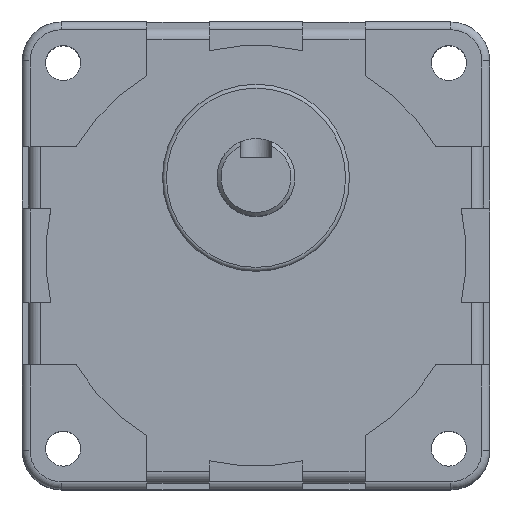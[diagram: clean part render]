
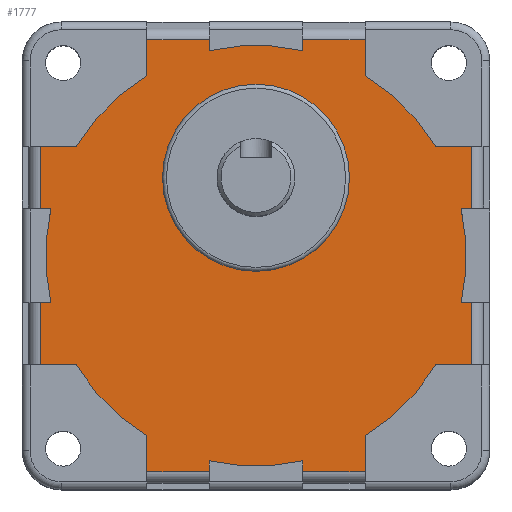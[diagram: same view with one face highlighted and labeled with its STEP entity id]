
A CAD part, top view. The second image highlights one B-rep face of the part: STEP entity #1777.
In plain terms, the highlighted planar face has unit normal (0, 0, 1).
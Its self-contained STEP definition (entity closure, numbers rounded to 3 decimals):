
#29=LINE('',#2660,#201);
#33=LINE('',#2672,#205);
#35=LINE('',#2678,#207);
#36=LINE('',#2682,#208);
#37=LINE('',#2684,#209);
#38=LINE('',#2686,#210);
#39=LINE('',#2690,#211);
#40=LINE('',#2692,#212);
#41=LINE('',#2694,#213);
#42=LINE('',#2698,#214);
#43=LINE('',#2700,#215);
#44=LINE('',#2702,#216);
#45=LINE('',#2706,#217);
#46=LINE('',#2708,#218);
#47=LINE('',#2710,#219);
#48=LINE('',#2714,#220);
#49=LINE('',#2716,#221);
#50=LINE('',#2718,#222);
#51=LINE('',#2722,#223);
#52=LINE('',#2724,#224);
#53=LINE('',#2726,#225);
#54=LINE('',#2729,#226);
#55=LINE('',#2731,#227);
#56=LINE('',#2734,#228);
#201=VECTOR('',#2113,8.);
#205=VECTOR('',#2123,8.);
#207=VECTOR('',#2129,4.613);
#208=VECTOR('',#2132,4.613);
#209=VECTOR('',#2133,8.);
#210=VECTOR('',#2134,1.375);
#211=VECTOR('',#2137,1.375);
#212=VECTOR('',#2138,8.);
#213=VECTOR('',#2139,4.613);
#214=VECTOR('',#2142,4.613);
#215=VECTOR('',#2143,8.);
#216=VECTOR('',#2144,1.375);
#217=VECTOR('',#2147,1.375);
#218=VECTOR('',#2148,8.);
#219=VECTOR('',#2149,4.613);
#220=VECTOR('',#2152,4.613);
#221=VECTOR('',#2153,8.);
#222=VECTOR('',#2154,1.375);
#223=VECTOR('',#2157,1.375);
#224=VECTOR('',#2158,8.);
#225=VECTOR('',#2159,4.613);
#226=VECTOR('',#2162,4.613);
#227=VECTOR('',#2163,1.375);
#228=VECTOR('',#2166,1.375);
#412=PLANE('',#1898);
#471=FACE_BOUND('',#606,.T.);
#494=FACE_OUTER_BOUND('',#605,.T.);
#605=EDGE_LOOP('',(#1274,#1275,#1276,#1277,#1278,#1279,#1280,#1281,#1282,
#1283,#1284,#1285,#1286,#1287,#1288,#1289,#1290,#1291,#1292,#1293,#1294,
#1295,#1296,#1297,#1298,#1299,#1300,#1301,#1302,#1303,#1304,#1305));
#606=EDGE_LOOP('',(#1306));
#727=CIRCLE('',#1899,27.);
#728=CIRCLE('',#1900,27.);
#729=CIRCLE('',#1901,27.);
#730=CIRCLE('',#1902,27.);
#731=CIRCLE('',#1903,27.);
#732=CIRCLE('',#1904,27.);
#733=CIRCLE('',#1905,27.);
#734=CIRCLE('',#1906,27.);
#735=CIRCLE('',#1907,12.);
#814=VERTEX_POINT('',#2653);
#817=VERTEX_POINT('',#2658);
#821=VERTEX_POINT('',#2669);
#822=VERTEX_POINT('',#2671);
#824=VERTEX_POINT('',#2677);
#825=VERTEX_POINT('',#2679);
#826=VERTEX_POINT('',#2681);
#827=VERTEX_POINT('',#2683);
#828=VERTEX_POINT('',#2685);
#829=VERTEX_POINT('',#2687);
#830=VERTEX_POINT('',#2689);
#831=VERTEX_POINT('',#2691);
#832=VERTEX_POINT('',#2693);
#833=VERTEX_POINT('',#2695);
#834=VERTEX_POINT('',#2697);
#835=VERTEX_POINT('',#2699);
#836=VERTEX_POINT('',#2701);
#837=VERTEX_POINT('',#2703);
#838=VERTEX_POINT('',#2705);
#839=VERTEX_POINT('',#2707);
#840=VERTEX_POINT('',#2709);
#841=VERTEX_POINT('',#2711);
#842=VERTEX_POINT('',#2713);
#843=VERTEX_POINT('',#2715);
#844=VERTEX_POINT('',#2717);
#845=VERTEX_POINT('',#2719);
#846=VERTEX_POINT('',#2721);
#847=VERTEX_POINT('',#2723);
#848=VERTEX_POINT('',#2725);
#849=VERTEX_POINT('',#2727);
#850=VERTEX_POINT('',#2730);
#851=VERTEX_POINT('',#2732);
#852=VERTEX_POINT('',#2735);
#996=EDGE_CURVE('',#817,#814,#29,.T.);
#1001=EDGE_CURVE('',#821,#822,#33,.T.);
#1004=EDGE_CURVE('',#817,#824,#35,.T.);
#1005=EDGE_CURVE('',#825,#824,#727,.T.);
#1006=EDGE_CURVE('',#826,#825,#36,.T.);
#1007=EDGE_CURVE('',#827,#826,#37,.T.);
#1008=EDGE_CURVE('',#828,#827,#38,.T.);
#1009=EDGE_CURVE('',#829,#828,#728,.T.);
#1010=EDGE_CURVE('',#829,#830,#39,.T.);
#1011=EDGE_CURVE('',#831,#830,#40,.T.);
#1012=EDGE_CURVE('',#831,#832,#41,.T.);
#1013=EDGE_CURVE('',#833,#832,#729,.T.);
#1014=EDGE_CURVE('',#834,#833,#42,.T.);
#1015=EDGE_CURVE('',#835,#834,#43,.T.);
#1016=EDGE_CURVE('',#836,#835,#44,.T.);
#1017=EDGE_CURVE('',#837,#836,#730,.T.);
#1018=EDGE_CURVE('',#837,#838,#45,.T.);
#1019=EDGE_CURVE('',#839,#838,#46,.T.);
#1020=EDGE_CURVE('',#839,#840,#47,.T.);
#1021=EDGE_CURVE('',#841,#840,#731,.T.);
#1022=EDGE_CURVE('',#842,#841,#48,.T.);
#1023=EDGE_CURVE('',#843,#842,#49,.T.);
#1024=EDGE_CURVE('',#844,#843,#50,.T.);
#1025=EDGE_CURVE('',#845,#844,#732,.T.);
#1026=EDGE_CURVE('',#845,#846,#51,.T.);
#1027=EDGE_CURVE('',#847,#846,#52,.T.);
#1028=EDGE_CURVE('',#847,#848,#53,.T.);
#1029=EDGE_CURVE('',#849,#848,#733,.T.);
#1030=EDGE_CURVE('',#822,#849,#54,.T.);
#1031=EDGE_CURVE('',#850,#821,#55,.T.);
#1032=EDGE_CURVE('',#851,#850,#734,.T.);
#1033=EDGE_CURVE('',#851,#814,#56,.T.);
#1034=EDGE_CURVE('',#852,#852,#735,.T.);
#1274=ORIENTED_EDGE('',*,*,#996,.F.);
#1275=ORIENTED_EDGE('',*,*,#1004,.T.);
#1276=ORIENTED_EDGE('',*,*,#1005,.F.);
#1277=ORIENTED_EDGE('',*,*,#1006,.F.);
#1278=ORIENTED_EDGE('',*,*,#1007,.F.);
#1279=ORIENTED_EDGE('',*,*,#1008,.F.);
#1280=ORIENTED_EDGE('',*,*,#1009,.F.);
#1281=ORIENTED_EDGE('',*,*,#1010,.T.);
#1282=ORIENTED_EDGE('',*,*,#1011,.F.);
#1283=ORIENTED_EDGE('',*,*,#1012,.T.);
#1284=ORIENTED_EDGE('',*,*,#1013,.F.);
#1285=ORIENTED_EDGE('',*,*,#1014,.F.);
#1286=ORIENTED_EDGE('',*,*,#1015,.F.);
#1287=ORIENTED_EDGE('',*,*,#1016,.F.);
#1288=ORIENTED_EDGE('',*,*,#1017,.F.);
#1289=ORIENTED_EDGE('',*,*,#1018,.T.);
#1290=ORIENTED_EDGE('',*,*,#1019,.F.);
#1291=ORIENTED_EDGE('',*,*,#1020,.T.);
#1292=ORIENTED_EDGE('',*,*,#1021,.F.);
#1293=ORIENTED_EDGE('',*,*,#1022,.F.);
#1294=ORIENTED_EDGE('',*,*,#1023,.F.);
#1295=ORIENTED_EDGE('',*,*,#1024,.F.);
#1296=ORIENTED_EDGE('',*,*,#1025,.F.);
#1297=ORIENTED_EDGE('',*,*,#1026,.T.);
#1298=ORIENTED_EDGE('',*,*,#1027,.F.);
#1299=ORIENTED_EDGE('',*,*,#1028,.T.);
#1300=ORIENTED_EDGE('',*,*,#1029,.F.);
#1301=ORIENTED_EDGE('',*,*,#1030,.F.);
#1302=ORIENTED_EDGE('',*,*,#1001,.F.);
#1303=ORIENTED_EDGE('',*,*,#1031,.F.);
#1304=ORIENTED_EDGE('',*,*,#1032,.F.);
#1305=ORIENTED_EDGE('',*,*,#1033,.T.);
#1306=ORIENTED_EDGE('',*,*,#1034,.T.);
#1777=ADVANCED_FACE('',(#494,#471),#412,.T.);
#1898=AXIS2_PLACEMENT_3D('',#2676,#2127,#2128);
#1899=AXIS2_PLACEMENT_3D('',#2680,#2130,#2131);
#1900=AXIS2_PLACEMENT_3D('',#2688,#2135,#2136);
#1901=AXIS2_PLACEMENT_3D('',#2696,#2140,#2141);
#1902=AXIS2_PLACEMENT_3D('',#2704,#2145,#2146);
#1903=AXIS2_PLACEMENT_3D('',#2712,#2150,#2151);
#1904=AXIS2_PLACEMENT_3D('',#2720,#2155,#2156);
#1905=AXIS2_PLACEMENT_3D('',#2728,#2160,#2161);
#1906=AXIS2_PLACEMENT_3D('',#2733,#2164,#2165);
#1907=AXIS2_PLACEMENT_3D('',#2736,#2167,#2168);
#2113=DIRECTION('',(0.,-1.,0.));
#2123=DIRECTION('',(0.,-1.,0.));
#2127=DIRECTION('center_axis',(0.,0.,1.));
#2128=DIRECTION('ref_axis',(1.,0.,0.));
#2129=DIRECTION('',(-1.,0.,0.));
#2130=DIRECTION('center_axis',(0.,0.,-1.));
#2131=DIRECTION('ref_axis',(-1.,0.,0.));
#2132=DIRECTION('',(0.,-1.,0.));
#2133=DIRECTION('',(1.,0.,0.));
#2134=DIRECTION('',(0.,1.,0.));
#2135=DIRECTION('center_axis',(0.,0.,-1.));
#2136=DIRECTION('ref_axis',(-1.,0.,0.));
#2137=DIRECTION('',(0.,1.,0.));
#2138=DIRECTION('',(1.,0.,0.));
#2139=DIRECTION('',(0.,-1.,0.));
#2140=DIRECTION('center_axis',(0.,0.,-1.));
#2141=DIRECTION('ref_axis',(-1.,0.,0.));
#2142=DIRECTION('',(1.,0.,0.));
#2143=DIRECTION('',(0.,1.,0.));
#2144=DIRECTION('',(-1.,0.,0.));
#2145=DIRECTION('center_axis',(0.,0.,-1.));
#2146=DIRECTION('ref_axis',(-1.,0.,0.));
#2147=DIRECTION('',(-1.,0.,0.));
#2148=DIRECTION('',(0.,1.,0.));
#2149=DIRECTION('',(1.,0.,0.));
#2150=DIRECTION('center_axis',(0.,0.,-1.));
#2151=DIRECTION('ref_axis',(-1.,0.,0.));
#2152=DIRECTION('',(0.,1.,0.));
#2153=DIRECTION('',(-1.,0.,0.));
#2154=DIRECTION('',(0.,-1.,0.));
#2155=DIRECTION('center_axis',(0.,0.,-1.));
#2156=DIRECTION('ref_axis',(-1.,0.,0.));
#2157=DIRECTION('',(0.,-1.,0.));
#2158=DIRECTION('',(-1.,0.,0.));
#2159=DIRECTION('',(0.,1.,0.));
#2160=DIRECTION('center_axis',(0.,0.,-1.));
#2161=DIRECTION('ref_axis',(-1.,0.,0.));
#2162=DIRECTION('',(-1.,0.,0.));
#2163=DIRECTION('',(1.,0.,0.));
#2164=DIRECTION('center_axis',(0.,0.,-1.));
#2165=DIRECTION('ref_axis',(-1.,0.,0.));
#2166=DIRECTION('',(1.,0.,0.));
#2167=DIRECTION('center_axis',(0.,0.,-1.));
#2168=DIRECTION('ref_axis',(1.,0.,0.));
#2653=CARTESIAN_POINT('',(27.7,6.,37.2));
#2658=CARTESIAN_POINT('',(27.7,14.,37.2));
#2660=CARTESIAN_POINT('',(27.7,7.,37.2));
#2669=CARTESIAN_POINT('',(27.7,-6.,37.2));
#2671=CARTESIAN_POINT('',(27.7,-14.,37.2));
#2672=CARTESIAN_POINT('',(27.7,-7.,37.2));
#2676=CARTESIAN_POINT('Origin',(0.,0.,37.2));
#2677=CARTESIAN_POINT('',(23.087,14.,37.2));
#2678=CARTESIAN_POINT('',(23.087,14.,37.2));
#2679=CARTESIAN_POINT('',(14.,23.087,37.2));
#2680=CARTESIAN_POINT('Origin',(0.,0.,37.2));
#2681=CARTESIAN_POINT('',(14.,27.7,37.2));
#2682=CARTESIAN_POINT('',(14.,23.087,37.2));
#2683=CARTESIAN_POINT('',(6.,27.7,37.2));
#2684=CARTESIAN_POINT('',(7.,27.7,37.2));
#2685=CARTESIAN_POINT('',(6.,26.325,37.2));
#2686=CARTESIAN_POINT('',(6.,30.,37.2));
#2687=CARTESIAN_POINT('',(-6.,26.325,37.2));
#2688=CARTESIAN_POINT('Origin',(0.,0.,37.2));
#2689=CARTESIAN_POINT('',(-6.,27.7,37.2));
#2690=CARTESIAN_POINT('',(-6.,30.,37.2));
#2691=CARTESIAN_POINT('',(-14.,27.7,37.2));
#2692=CARTESIAN_POINT('',(-7.,27.7,37.2));
#2693=CARTESIAN_POINT('',(-14.,23.087,37.2));
#2694=CARTESIAN_POINT('',(-14.,23.087,37.2));
#2695=CARTESIAN_POINT('',(-23.087,14.,37.2));
#2696=CARTESIAN_POINT('Origin',(0.,0.,37.2));
#2697=CARTESIAN_POINT('',(-27.7,14.,37.2));
#2698=CARTESIAN_POINT('',(-23.087,14.,37.2));
#2699=CARTESIAN_POINT('',(-27.7,6.,37.2));
#2700=CARTESIAN_POINT('',(-27.7,7.,37.2));
#2701=CARTESIAN_POINT('',(-26.325,6.,37.2));
#2702=CARTESIAN_POINT('',(-30.,6.,37.2));
#2703=CARTESIAN_POINT('',(-26.325,-6.,37.2));
#2704=CARTESIAN_POINT('Origin',(0.,0.,37.2));
#2705=CARTESIAN_POINT('',(-27.7,-6.,37.2));
#2706=CARTESIAN_POINT('',(-30.,-6.,37.2));
#2707=CARTESIAN_POINT('',(-27.7,-14.,37.2));
#2708=CARTESIAN_POINT('',(-27.7,-7.,37.2));
#2709=CARTESIAN_POINT('',(-23.087,-14.,37.2));
#2710=CARTESIAN_POINT('',(-23.087,-14.,37.2));
#2711=CARTESIAN_POINT('',(-14.,-23.087,37.2));
#2712=CARTESIAN_POINT('Origin',(0.,0.,37.2));
#2713=CARTESIAN_POINT('',(-14.,-27.7,37.2));
#2714=CARTESIAN_POINT('',(-14.,-23.087,37.2));
#2715=CARTESIAN_POINT('',(-6.,-27.7,37.2));
#2716=CARTESIAN_POINT('',(-7.,-27.7,37.2));
#2717=CARTESIAN_POINT('',(-6.,-26.325,37.2));
#2718=CARTESIAN_POINT('',(-6.,-30.,37.2));
#2719=CARTESIAN_POINT('',(6.,-26.325,37.2));
#2720=CARTESIAN_POINT('Origin',(0.,0.,37.2));
#2721=CARTESIAN_POINT('',(6.,-27.7,37.2));
#2722=CARTESIAN_POINT('',(6.,-30.,37.2));
#2723=CARTESIAN_POINT('',(14.,-27.7,37.2));
#2724=CARTESIAN_POINT('',(7.,-27.7,37.2));
#2725=CARTESIAN_POINT('',(14.,-23.087,37.2));
#2726=CARTESIAN_POINT('',(14.,-23.087,37.2));
#2727=CARTESIAN_POINT('',(23.087,-14.,37.2));
#2728=CARTESIAN_POINT('Origin',(0.,0.,37.2));
#2729=CARTESIAN_POINT('',(23.087,-14.,37.2));
#2730=CARTESIAN_POINT('',(26.325,-6.,37.2));
#2731=CARTESIAN_POINT('',(30.,-6.,37.2));
#2732=CARTESIAN_POINT('',(26.325,6.,37.2));
#2733=CARTESIAN_POINT('Origin',(0.,0.,37.2));
#2734=CARTESIAN_POINT('',(30.,6.,37.2));
#2735=CARTESIAN_POINT('',(-12.,10.,37.2));
#2736=CARTESIAN_POINT('Origin',(0.,10.,37.2));
